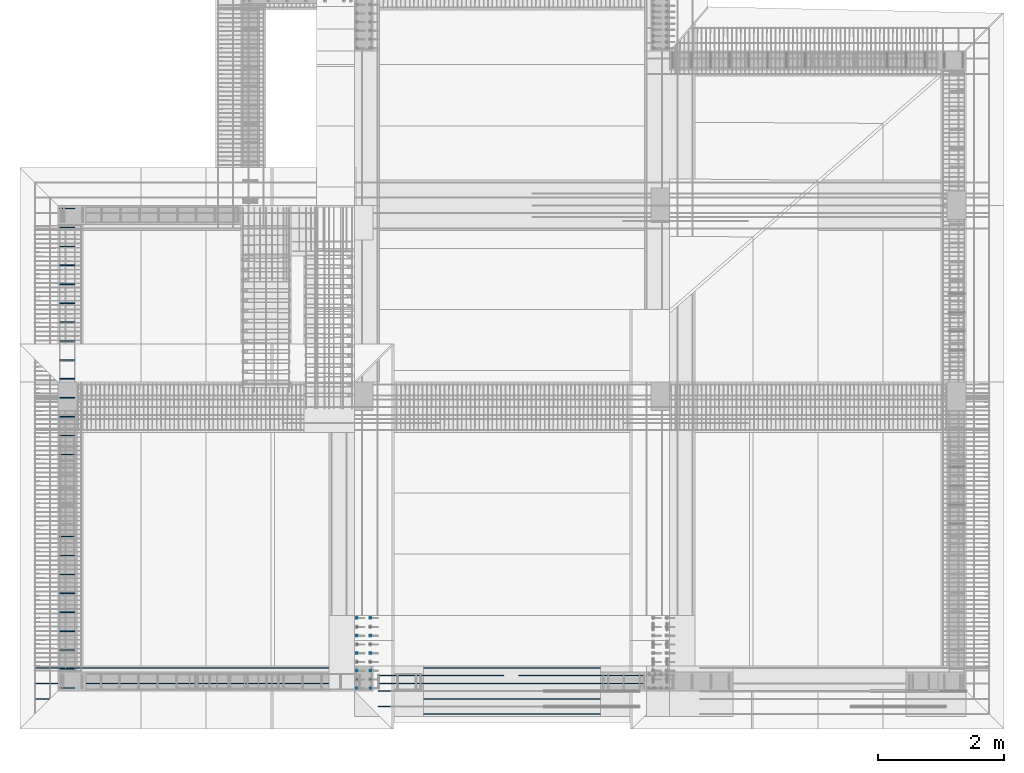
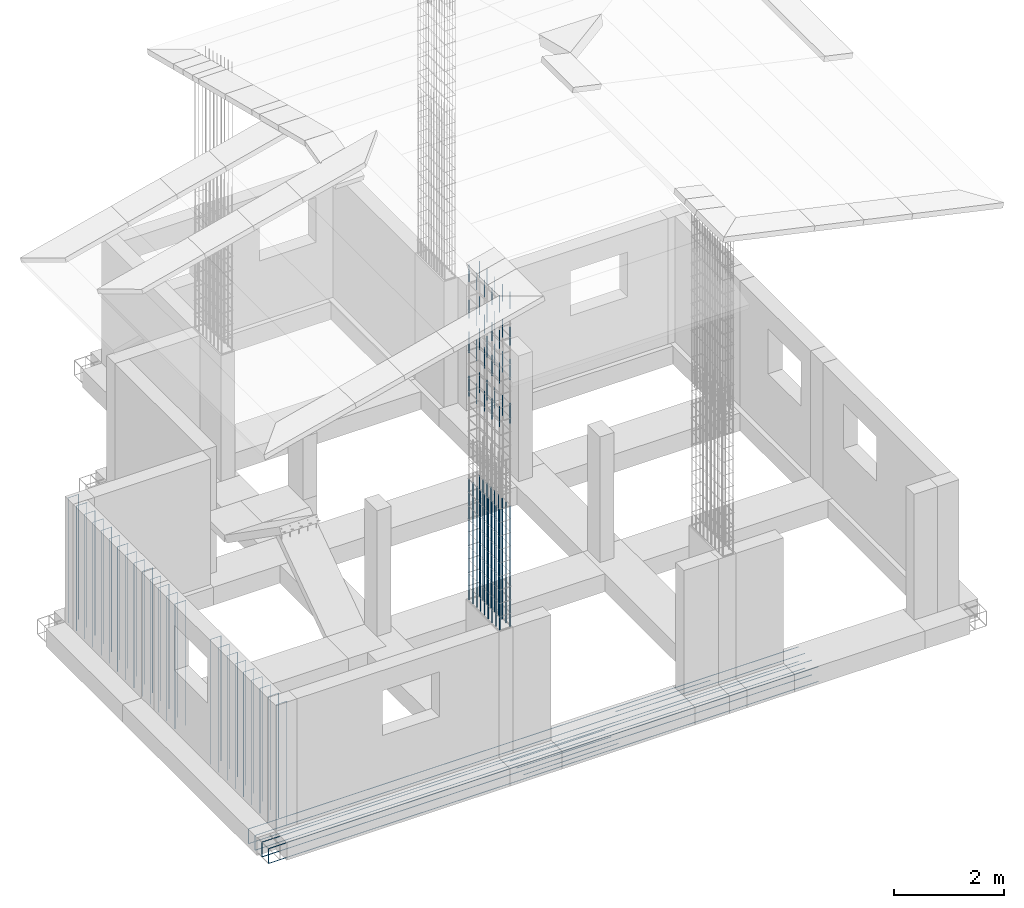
# One storey, part 4 of 15: 8 reinforcing bars.
"""IFC4 building model written with IfcOpenShell, lengths in metres."""

import ifcopenshell
import ifcopenshell.guid

model = None  # the IFC model being written
_history = None  # IfcOwnerHistory: only IFC2X3 demands one
_inside = {}  # id of a spatial element -> (the spatial element, [elements in it])
_under = {}  # id of a project, library or spatial element -> (it, [spatial elements below it])
_declared = {}  # id of a project -> (the project, [libraries it declares])
_typed = {}  # id of a type object -> (the type object, [elements of that type])
_made_of = {}  # id of a material, layer set ... -> (it, [elements and type objects made of it])


def new_model(schema):
    """Start an empty IFC model of exactly this schema.

    Asked for "IFC4X3", IfcOpenShell would pick the latest addendum, in which some entities
    have other attributes; the version numbers below select the first issue.
    IFC2X3 requires an IfcOwnerHistory on every rooted entity: one is made here for all.
    """
    global model, _history
    if schema == "IFC4X3":
        model = ifcopenshell.file(schema_version=(4, 3, 0, 0))
    else:
        model = ifcopenshell.file(schema=schema)
    _inside.clear()
    _under.clear()
    _declared.clear()
    _typed.clear()
    _made_of.clear()
    _history = None
    if model.schema == "IFC2X3":
        org = make("IfcOrganization", Name="unknown")
        user = make(
            "IfcPersonAndOrganization",
            ThePerson=make("IfcPerson", FamilyName="unknown"),
            TheOrganization=org,
        )
        app = make(
            "IfcApplication",
            ApplicationDeveloper=org,
            Version="unknown",
            ApplicationFullName="unknown",
            ApplicationIdentifier="unknown",
        )
        _history = make(
            "IfcOwnerHistory",
            OwningUser=user,
            OwningApplication=app,
            ChangeAction="ADDED",
            CreationDate=0,
        )
    return model


def make(cls, **values):
    """One entity of the class cls with the attributes given. An attribute that is None is left unset."""
    return model.create_entity(
        cls, **{name: value for name, value in values.items() if value is not None}
    )


def entity(cls, *values):
    """Any entity or typed value of the class cls, its attributes in the order of the schema. None: left unset."""
    e = model.create_entity(cls)
    for i, value in enumerate(values):
        if value is not None:
            e[i] = value
    return e


def rooted(cls, **values):
    """An entity with a GlobalId (a new one), such as an element, a storey or a relation."""
    return make(cls, GlobalId=ifcopenshell.guid.new(), OwnerHistory=_history, **values)


def si_unit(unit_type, name, prefix=None):
    """IfcSIUnit, for example si_unit("LENGTHUNIT", "METRE", prefix="MILLI")."""
    return make("IfcSIUnit", UnitType=unit_type, Prefix=prefix, Name=name)


def assignment(units):
    """IfcUnitAssignment: the units of a project."""
    return None if units is None else make("IfcUnitAssignment", Units=units)


def point(xyz):
    """IfcCartesianPoint."""
    return None if xyz is None else make("IfcCartesianPoint", Coordinates=xyz)


def direction(xyz):
    """IfcDirection."""
    return None if xyz is None else make("IfcDirection", DirectionRatios=xyz)


def frame(location, z_axis=None, x_axis=None):
    """IfcAxis2Placement3D, a coordinate frame: its origin and axes. An axis left out is left unset."""
    return make(
        "IfcAxis2Placement3D",
        Location=point(location),
        Axis=direction(z_axis),
        RefDirection=direction(x_axis),
    )


def origin_with_axes():
    """The frame at (0, 0, 0) with the z axis (0, 0, 1) and the x axis (1, 0, 0) written out."""
    return frame((0.0, 0.0, 0.0), z_axis=(0.0, 0.0, 1.0), x_axis=(1.0, 0.0, 0.0))


def place(relative_to, where):
    """IfcLocalPlacement: puts the frame where relative to a parent placement (None: the world)."""
    return make(
        "IfcLocalPlacement", PlacementRelTo=relative_to, RelativePlacement=where
    )


def context(
    kind, dimensions, precision=None, world=None, true_north=None, identifier=None
):
    """IfcGeometricRepresentationContext, for example the 3D "Model" context."""
    return make(
        "IfcGeometricRepresentationContext",
        ContextIdentifier=identifier,
        ContextType=kind,
        CoordinateSpaceDimension=dimensions,
        Precision=precision,
        WorldCoordinateSystem=world,
        TrueNorth=true_north,
    )


def project(units=None, contexts=None):
    """IfcProject with its units and contexts."""
    return rooted(
        "IfcProject",
        Name="project",
        RepresentationContexts=contexts,
        UnitsInContext=assignment(units),
    )


def spatial(cls, under=None, at=None, **own):
    """A site, building, storey or space (cls), placed at a placement, below another one or the project."""
    s = rooted(cls, ObjectPlacement=at, **own)
    if under is not None:
        _under.setdefault(under.id(), (under, []))[1].append(s)
    return s


def shape(context_of_items, identifier, shape_type, items):
    """IfcShapeRepresentation: the items that make up one representation, for example the "Body"."""
    return make(
        "IfcShapeRepresentation",
        ContextOfItems=context_of_items,
        RepresentationIdentifier=identifier,
        RepresentationType=shape_type,
        Items=items,
    )


def source(mapping_origin, context_of_items, identifier, shape_type, items):
    """IfcRepresentationMap: a shape defined once, which mapped items show again and again."""
    return make(
        "IfcRepresentationMap",
        MappingOrigin=mapping_origin,
        MappedRepresentation=shape(context_of_items, identifier, shape_type, items),
    )


def transform(
    local_origin,
    x_axis=None,
    y_axis=None,
    z_axis=None,
    scale=None,
    scale2=None,
    scale3=None,
    uniform=True,
):
    """IfcCartesianTransformationOperator3D, or its non-uniform kind. x_axis, y_axis, z_axis: its Axis1, 2, 3."""
    if uniform:
        return make(
            "IfcCartesianTransformationOperator3D",
            Axis1=direction(x_axis),
            Axis2=direction(y_axis),
            LocalOrigin=point(local_origin),
            Scale=scale,
            Axis3=direction(z_axis),
        )
    return make(
        "IfcCartesianTransformationOperator3DnonUniform",
        Axis1=direction(x_axis),
        Axis2=direction(y_axis),
        LocalOrigin=point(local_origin),
        Scale=scale,
        Axis3=direction(z_axis),
        Scale2=scale2,
        Scale3=scale3,
    )


def mapped(mapping_source, mapping_target):
    """IfcMappedItem: shows the shape of a source again, moved by a transform."""
    return make(
        "IfcMappedItem", MappingSource=mapping_source, MappingTarget=mapping_target
    )


def made_of(thing, what):
    """Note that an element or type object is made of a material, layer set ...; save() writes the relation."""
    if what is not None:
        _made_of.setdefault(what.id(), (what, []))[1].append(thing)
    return thing


def element(
    cls,
    number,
    at=None,
    inside=None,
    cuts=None,
    type_object=None,
    material=None,
    context=None,
    identifier="Body",
    shape_type=None,
    held_by="IfcProductDefinitionShape",
    body=None,
    shapes=None,
    **own,
):
    """One element of the class cls, such as IfcWall. Its Tag is "e" and its number.

    at: its placement. inside: the storey or other place that contains it. cuts: it is an
    opening in that element (IfcRelVoidsElement). A single representation is given by context,
    identifier, shape_type and body (its items); several are given by shapes. held_by: the class
    of the entity that holds the representations. save() writes the other relations.
    """
    e = rooted(cls, Tag="e%d" % number, ObjectPlacement=at, **own)
    if body is not None:
        shapes = [shape(context, identifier, shape_type, body)]
    if shapes is not None:
        e.Representation = make(held_by, Representations=shapes)
    if inside is not None:
        _inside.setdefault(inside.id(), (inside, []))[1].append(e)
    if cuts is not None:
        rooted(
            "IfcRelVoidsElement", RelatingBuildingElement=cuts, RelatedOpeningElement=e
        )
    if type_object is not None:
        _typed.setdefault(type_object.id(), (type_object, []))[1].append(e)
    return made_of(e, material)


def aggregate(whole, parts):
    """IfcRelAggregates: a whole, such as a stair, and the parts it consists of."""
    return rooted("IfcRelAggregates", RelatingObject=whole, RelatedObjects=parts)


def save(model, path):
    """Write the relations noted so far, then the file.

    IfcRelAggregates (storeys below a building ...), IfcRelContainedInSpatialStructure (elements
    in a storey), IfcRelDefinesByType, IfcRelAssociatesMaterial and IfcRelDeclares: one each for
    every whole, place, type object, material and project.
    """
    for whole, parts in _under.values():
        aggregate(whole, parts)
    for where, things in _inside.values():
        rooted(
            "IfcRelContainedInSpatialStructure",
            RelatedElements=things,
            RelatingStructure=where,
        )
    for kind, things in _typed.values():
        rooted("IfcRelDefinesByType", RelatedObjects=things, RelatingType=kind)
    for what, things in _made_of.values():
        rooted("IfcRelAssociatesMaterial", RelatedObjects=things, RelatingMaterial=what)
    for by, libraries in _declared.values():
        rooted("IfcRelDeclares", RelatingContext=by, RelatedDefinitions=libraries)
    model.write(path)


model = new_model("IFC4")

# Units and contexts
model_context = context("Model", 3, precision=1e-05, world=origin_with_axes())
ifc_project = project(units=[si_unit("LENGTHUNIT", "METRE"), si_unit("AREAUNIT", "SQUARE_METRE"), si_unit("VOLUMEUNIT", "CUBIC_METRE"), si_unit("MASSUNIT", "GRAM", prefix="KILO"), si_unit("TIMEUNIT", "SECOND"), si_unit("PLANEANGLEUNIT", "RADIAN"), si_unit("SOLIDANGLEUNIT", "STERADIAN"), si_unit("THERMODYNAMICTEMPERATUREUNIT", "DEGREE_CELSIUS")], contexts=[model_context])

# Site, building, storey
placement_1 = place(None, origin_with_axes())
site = spatial("IfcSite", under=ifc_project, at=placement_1, Name="Italia", CompositionType="ELEMENT")
building = spatial("IfcBuilding", under=site, at=placement_1, Name="Bifamiliare", CompositionType="ELEMENT")
storey = spatial("IfcBuildingStorey", under=building, at=placement_1, Name="Storey 0", CompositionType="ELEMENT", Elevation=0.0)

# Reinforcing bars
shared_shape_1 = source(origin_with_axes(), model_context, "Body", "AdvancedSweptSolid", [
    entity("IfcSweptDiskSolid", entity("IfcIndexedPolyCurve", entity("IfcCartesianPointList3D", [[6.057, 2.557, 2.8], [6.057, 2.557, 3.25]]), [entity("IfcLineIndex", [1, 2])], False), 0.01),
])
placement_2 = place(placement_1, origin_with_axes())
reinforcing_bar_1_placement = place(placement_2, origin_with_axes())
element("IfcReinforcingBar", 1, at=reinforcing_bar_1_placement, inside=storey, BarLength=0.45, CrossSectionArea=0.00031416, NominalDiameter=0.02, context=model_context, shape_type="MappedRepresentation", body=[
    mapped(shared_shape_1, transform((-0.214, -0.2795, 0.45), x_axis=(1.0, 0.0, 0.0), y_axis=(0.0, 1.0, 0.0), z_axis=(0.0, 0.0, 1.0), scale=1.0)),
    mapped(shared_shape_1, transform((-0.214, -0.14075, 0.45), x_axis=(1.0, 0.0, 0.0), y_axis=(0.0, 1.0, 0.0), z_axis=(0.0, 0.0, 1.0), scale=1.0)),
    mapped(shared_shape_1, transform((-0.214, -0.69575, 0.45), x_axis=(1.0, 0.0, 0.0), y_axis=(0.0, 1.0, 0.0), z_axis=(0.0, 0.0, 1.0), scale=1.0)),
    mapped(shared_shape_1, transform((-0.214, -0.69575, 0.9), x_axis=(1.0, 0.0, 0.0), y_axis=(0.0, 1.0, 0.0), z_axis=(0.0, 0.0, 1.0), scale=1.0)),
    mapped(shared_shape_1, transform((-0.214, -0.8345, 0.9), x_axis=(1.0, 0.0, 0.0), y_axis=(0.0, 1.0, 0.0), z_axis=(0.0, 0.0, 1.0), scale=1.0)),
    mapped(shared_shape_1, transform((-0.214, -0.557, 0.45), x_axis=(1.0, 0.0, 0.0), y_axis=(0.0, 1.0, 0.0), z_axis=(0.0, 0.0, 1.0), scale=1.0)),
    mapped(shared_shape_1, transform((-0.214, 0.0, 0.45), x_axis=(1.0, 0.0, 0.0), y_axis=(0.0, 1.0, 0.0), z_axis=(0.0, 0.0, 1.0), scale=1.0)),
    mapped(shared_shape_1, transform((-0.214, -0.8345, 0.45), x_axis=(1.0, 0.0, 0.0), y_axis=(0.0, 1.0, 0.0), z_axis=(0.0, 0.0, 1.0), scale=1.0)),
    mapped(shared_shape_1, transform((-0.214, -0.97325, 0.45), x_axis=(1.0, 0.0, 0.0), y_axis=(0.0, 1.0, 0.0), z_axis=(0.0, 0.0, 1.0), scale=1.0)),
    mapped(shared_shape_1, transform((-0.214, -0.41825, 0.45), x_axis=(1.0, 0.0, 0.0), y_axis=(0.0, 1.0, 0.0), z_axis=(0.0, 0.0, 1.0), scale=1.0)),
    mapped(shared_shape_1, transform((0.0, -0.2795, 0.0), x_axis=(1.0, 0.0, 0.0), y_axis=(0.0, 1.0, 0.0), z_axis=(0.0, 0.0, 1.0), scale=1.0)),
    mapped(shared_shape_1, transform((0.0, -1.114, 0.9), x_axis=(1.0, 0.0, 0.0), y_axis=(0.0, 1.0, 0.0), z_axis=(0.0, 0.0, 1.0), scale=1.0)),
    mapped(shared_shape_1, transform((0.0, -0.97325, 0.0), x_axis=(1.0, 0.0, 0.0), y_axis=(0.0, 1.0, 0.0), z_axis=(0.0, 0.0, 1.0), scale=1.0)),
    mapped(shared_shape_1, transform((-0.214, -0.97325, 0.9), x_axis=(1.0, 0.0, 0.0), y_axis=(0.0, 1.0, 0.0), z_axis=(0.0, 0.0, 1.0), scale=1.0)),
    mapped(shared_shape_1, transform((-0.214, -1.114, 0.0), x_axis=(1.0, 0.0, 0.0), y_axis=(0.0, 1.0, 0.0), z_axis=(0.0, 0.0, 1.0), scale=1.0)),
    mapped(shared_shape_1, transform((-0.214, -0.69575, 0.0), x_axis=(1.0, 0.0, 0.0), y_axis=(0.0, 1.0, 0.0), z_axis=(0.0, 0.0, 1.0), scale=1.0)),
    mapped(shared_shape_1, transform((-0.214, -0.8345, 0.0), x_axis=(1.0, 0.0, 0.0), y_axis=(0.0, 1.0, 0.0), z_axis=(0.0, 0.0, 1.0), scale=1.0)),
    mapped(shared_shape_1, transform((0.0, -0.69575, 0.0), x_axis=(1.0, 0.0, 0.0), y_axis=(0.0, 1.0, 0.0), z_axis=(0.0, 0.0, 1.0), scale=1.0)),
    mapped(shared_shape_1, transform((0.0, -0.14075, 0.0), x_axis=(1.0, 0.0, 0.0), y_axis=(0.0, 1.0, 0.0), z_axis=(0.0, 0.0, 1.0), scale=1.0)),
    mapped(shared_shape_1, transform((-0.214, -0.97325, 0.0), x_axis=(1.0, 0.0, 0.0), y_axis=(0.0, 1.0, 0.0), z_axis=(0.0, 0.0, 1.0), scale=1.0)),
    mapped(shared_shape_1, transform((0.0, -0.69575, 0.45), x_axis=(1.0, 0.0, 0.0), y_axis=(0.0, 1.0, 0.0), z_axis=(0.0, 0.0, 1.0), scale=1.0)),
    mapped(shared_shape_1, transform((0.0, -0.557, 0.45), x_axis=(1.0, 0.0, 0.0), y_axis=(0.0, 1.0, 0.0), z_axis=(0.0, 0.0, 1.0), scale=1.0)),
    mapped(shared_shape_1, transform((0.0, -0.8345, 0.45), x_axis=(1.0, 0.0, 0.0), y_axis=(0.0, 1.0, 0.0), z_axis=(0.0, 0.0, 1.0), scale=1.0)),
    mapped(shared_shape_1, transform((-0.214, -1.114, 0.45), x_axis=(1.0, 0.0, 0.0), y_axis=(0.0, 1.0, 0.0), z_axis=(0.0, 0.0, 1.0), scale=1.0)),
    mapped(shared_shape_1, transform((0.0, -0.557, 0.9), x_axis=(1.0, 0.0, 0.0), y_axis=(0.0, 1.0, 0.0), z_axis=(0.0, 0.0, 1.0), scale=1.0)),
    mapped(shared_shape_1, transform((0.0, -0.8345, 0.9), x_axis=(1.0, 0.0, 0.0), y_axis=(0.0, 1.0, 0.0), z_axis=(0.0, 0.0, 1.0), scale=1.0)),
    mapped(shared_shape_1, transform((0.0, -0.69575, 0.9), x_axis=(1.0, 0.0, 0.0), y_axis=(0.0, 1.0, 0.0), z_axis=(0.0, 0.0, 1.0), scale=1.0)),
    mapped(shared_shape_1, transform((0.0, -0.97325, 0.9), x_axis=(1.0, 0.0, 0.0), y_axis=(0.0, 1.0, 0.0), z_axis=(0.0, 0.0, 1.0), scale=1.0)),
    mapped(shared_shape_1, transform((-0.214, -0.557, 0.9), x_axis=(1.0, 0.0, 0.0), y_axis=(0.0, 1.0, 0.0), z_axis=(0.0, 0.0, 1.0), scale=1.0)),
    mapped(shared_shape_1, transform((0.0, -0.41825, 0.0), x_axis=(1.0, 0.0, 0.0), y_axis=(0.0, 1.0, 0.0), z_axis=(0.0, 0.0, 1.0), scale=1.0)),
    mapped(shared_shape_1, transform((-0.214, -0.557, 0.0), x_axis=(1.0, 0.0, 0.0), y_axis=(0.0, 1.0, 0.0), z_axis=(0.0, 0.0, 1.0), scale=1.0)),
    mapped(shared_shape_1, transform((0.0, -0.41825, 0.9), x_axis=(1.0, 0.0, 0.0), y_axis=(0.0, 1.0, 0.0), z_axis=(0.0, 0.0, 1.0), scale=1.0)),
    mapped(shared_shape_1, transform((0.0, -0.41825, 0.45), x_axis=(1.0, 0.0, 0.0), y_axis=(0.0, 1.0, 0.0), z_axis=(0.0, 0.0, 1.0), scale=1.0)),
    mapped(shared_shape_1, transform((-0.214, -1.114, 0.9), x_axis=(1.0, 0.0, 0.0), y_axis=(0.0, 1.0, 0.0), z_axis=(0.0, 0.0, 1.0), scale=1.0)),
    mapped(shared_shape_1, transform((0.0, -0.41825, 1.35), x_axis=(1.0, 0.0, 0.0), y_axis=(0.0, 1.0, 0.0), z_axis=(0.0, 0.0, 1.0), scale=1.0)),
    mapped(shared_shape_1, transform((0.0, -0.557, 1.35), x_axis=(1.0, 0.0, 0.0), y_axis=(0.0, 1.0, 0.0), z_axis=(0.0, 0.0, 1.0), scale=1.0)),
    mapped(shared_shape_1, transform((0.0, -0.69575, 1.35), x_axis=(1.0, 0.0, 0.0), y_axis=(0.0, 1.0, 0.0), z_axis=(0.0, 0.0, 1.0), scale=1.0)),
    mapped(shared_shape_1, transform((0.0, -0.8345, 1.35), x_axis=(1.0, 0.0, 0.0), y_axis=(0.0, 1.0, 0.0), z_axis=(0.0, 0.0, 1.0), scale=1.0)),
    mapped(shared_shape_1, transform((0.0, -0.97325, 1.35), x_axis=(1.0, 0.0, 0.0), y_axis=(0.0, 1.0, 0.0), z_axis=(0.0, 0.0, 1.0), scale=1.0)),
    mapped(shared_shape_1, transform((0.0, -0.8345, 0.0), x_axis=(1.0, 0.0, 0.0), y_axis=(0.0, 1.0, 0.0), z_axis=(0.0, 0.0, 1.0), scale=1.0)),
    mapped(shared_shape_1, transform((-0.214, -0.2795, 0.0), x_axis=(1.0, 0.0, 0.0), y_axis=(0.0, 1.0, 0.0), z_axis=(0.0, 0.0, 1.0), scale=1.0)),
    mapped(shared_shape_1, transform((-0.214, 0.0, 1.8), x_axis=(1.0, 0.0, 0.0), y_axis=(0.0, 1.0, 0.0), z_axis=(0.0, 0.0, 1.0), scale=1.0)),
    mapped(shared_shape_1, transform((-0.214, -0.2795, 0.9), x_axis=(1.0, 0.0, 0.0), y_axis=(0.0, 1.0, 0.0), z_axis=(0.0, 0.0, 1.0), scale=1.0)),
    mapped(shared_shape_1, transform((-0.214, -0.41825, 0.9), x_axis=(1.0, 0.0, 0.0), y_axis=(0.0, 1.0, 0.0), z_axis=(0.0, 0.0, 1.0), scale=1.0)),
    mapped(shared_shape_1, transform((-0.214, -0.8345, 1.8), x_axis=(1.0, 0.0, 0.0), y_axis=(0.0, 1.0, 0.0), z_axis=(0.0, 0.0, 1.0), scale=1.0)),
    mapped(shared_shape_1, transform((0.0, 0.0, 0.0), x_axis=(1.0, 0.0, 0.0), y_axis=(0.0, 1.0, 0.0), z_axis=(0.0, 0.0, 1.0), scale=1.0)),
    mapped(shared_shape_1, transform((-0.214, -0.14075, 0.0), x_axis=(1.0, 0.0, 0.0), y_axis=(0.0, 1.0, 0.0), z_axis=(0.0, 0.0, 1.0), scale=1.0)),
    mapped(shared_shape_1, transform((-0.214, -0.14075, 0.9), x_axis=(1.0, 0.0, 0.0), y_axis=(0.0, 1.0, 0.0), z_axis=(0.0, 0.0, 1.0), scale=1.0)),
    mapped(shared_shape_1, transform((0.0, -0.557, 0.0), x_axis=(1.0, 0.0, 0.0), y_axis=(0.0, 1.0, 0.0), z_axis=(0.0, 0.0, 1.0), scale=1.0)),
    mapped(shared_shape_1, transform((-0.214, -0.2795, 1.8), x_axis=(1.0, 0.0, 0.0), y_axis=(0.0, 1.0, 0.0), z_axis=(0.0, 0.0, 1.0), scale=1.0)),
    mapped(shared_shape_1, transform((-0.214, -0.557, 2.25), x_axis=(1.0, 0.0, 0.0), y_axis=(0.0, 1.0, 0.0), z_axis=(0.0, 0.0, 1.0), scale=1.0)),
    mapped(shared_shape_1, transform((-0.214, -0.41825, 0.0), x_axis=(1.0, 0.0, 0.0), y_axis=(0.0, 1.0, 0.0), z_axis=(0.0, 0.0, 1.0), scale=1.0)),
    mapped(shared_shape_1, transform((0.0, 0.0, 1.35), x_axis=(1.0, 0.0, 0.0), y_axis=(0.0, 1.0, 0.0), z_axis=(0.0, 0.0, 1.0), scale=1.0)),
    mapped(shared_shape_1, transform((0.0, -0.2795, 1.35), x_axis=(1.0, 0.0, 0.0), y_axis=(0.0, 1.0, 0.0), z_axis=(0.0, 0.0, 1.0), scale=1.0)),
    mapped(shared_shape_1, transform((0.0, 0.0, 0.9), x_axis=(1.0, 0.0, 0.0), y_axis=(0.0, 1.0, 0.0), z_axis=(0.0, 0.0, 1.0), scale=1.0)),
    mapped(shared_shape_1, transform((0.0, -0.2795, 0.9), x_axis=(1.0, 0.0, 0.0), y_axis=(0.0, 1.0, 0.0), z_axis=(0.0, 0.0, 1.0), scale=1.0)),
    mapped(shared_shape_1, transform((0.0, -0.14075, 1.35), x_axis=(1.0, 0.0, 0.0), y_axis=(0.0, 1.0, 0.0), z_axis=(0.0, 0.0, 1.0), scale=1.0)),
    mapped(shared_shape_1, transform((0.0, -0.14075, 0.9), x_axis=(1.0, 0.0, 0.0), y_axis=(0.0, 1.0, 0.0), z_axis=(0.0, 0.0, 1.0), scale=1.0)),
    mapped(shared_shape_1, transform((0.0, -0.14075, 0.45), x_axis=(1.0, 0.0, 0.0), y_axis=(0.0, 1.0, 0.0), z_axis=(0.0, 0.0, 1.0), scale=1.0)),
    mapped(shared_shape_1, transform((0.0, 0.0, 0.45), x_axis=(1.0, 0.0, 0.0), y_axis=(0.0, 1.0, 0.0), z_axis=(0.0, 0.0, 1.0), scale=1.0)),
    mapped(shared_shape_1, transform((0.0, -0.2795, 0.45), x_axis=(1.0, 0.0, 0.0), y_axis=(0.0, 1.0, 0.0), z_axis=(0.0, 0.0, 1.0), scale=1.0)),
    mapped(shared_shape_1, transform((-0.214, -1.114, 1.35), x_axis=(1.0, 0.0, 0.0), y_axis=(0.0, 1.0, 0.0), z_axis=(0.0, 0.0, 1.0), scale=1.0)),
    mapped(shared_shape_1, transform((-0.214, 0.0, 0.9), x_axis=(1.0, 0.0, 0.0), y_axis=(0.0, 1.0, 0.0), z_axis=(0.0, 0.0, 1.0), scale=1.0)),
    mapped(shared_shape_1, transform((-0.214, -0.557, 1.8), x_axis=(1.0, 0.0, 0.0), y_axis=(0.0, 1.0, 0.0), z_axis=(0.0, 0.0, 1.0), scale=1.0)),
    mapped(shared_shape_1, transform((-0.214, -1.114, 1.8), x_axis=(1.0, 0.0, 0.0), y_axis=(0.0, 1.0, 0.0), z_axis=(0.0, 0.0, 1.0), scale=1.0)),
    mapped(shared_shape_1, transform((0.0, -0.97325, 2.25), x_axis=(1.0, 0.0, 0.0), y_axis=(0.0, 1.0, 0.0), z_axis=(0.0, 0.0, 1.0), scale=1.0)),
    mapped(shared_shape_1, transform((-0.214, -0.69575, 1.8), x_axis=(1.0, 0.0, 0.0), y_axis=(0.0, 1.0, 0.0), z_axis=(0.0, 0.0, 1.0), scale=1.0)),
    mapped(shared_shape_1, transform((0.0, -0.97325, 0.45), x_axis=(1.0, 0.0, 0.0), y_axis=(0.0, 1.0, 0.0), z_axis=(0.0, 0.0, 1.0), scale=1.0)),
    mapped(shared_shape_1, transform((-0.214, 0.0, 0.0), x_axis=(1.0, 0.0, 0.0), y_axis=(0.0, 1.0, 0.0), z_axis=(0.0, 0.0, 1.0), scale=1.0)),
    mapped(shared_shape_1, transform((-0.214, -0.41825, 1.8), x_axis=(1.0, 0.0, 0.0), y_axis=(0.0, 1.0, 0.0), z_axis=(0.0, 0.0, 1.0), scale=1.0)),
    mapped(shared_shape_1, transform((-0.214, -1.114, 2.25), x_axis=(1.0, 0.0, 0.0), y_axis=(0.0, 1.0, 0.0), z_axis=(0.0, 0.0, 1.0), scale=1.0)),
    mapped(shared_shape_1, transform((-0.214, -0.97325, 1.35), x_axis=(1.0, 0.0, 0.0), y_axis=(0.0, 1.0, 0.0), z_axis=(0.0, 0.0, 1.0), scale=1.0)),
    mapped(shared_shape_1, transform((0.0, -0.8345, 1.8), x_axis=(1.0, 0.0, 0.0), y_axis=(0.0, 1.0, 0.0), z_axis=(0.0, 0.0, 1.0), scale=1.0)),
    mapped(shared_shape_1, transform((0.0, -1.114, 0.45), x_axis=(1.0, 0.0, 0.0), y_axis=(0.0, 1.0, 0.0), z_axis=(0.0, 0.0, 1.0), scale=1.0)),
    mapped(shared_shape_1, transform((-0.214, -0.69575, 1.35), x_axis=(1.0, 0.0, 0.0), y_axis=(0.0, 1.0, 0.0), z_axis=(0.0, 0.0, 1.0), scale=1.0)),
    mapped(shared_shape_1, transform((-0.214, -0.14075, 1.8), x_axis=(1.0, 0.0, 0.0), y_axis=(0.0, 1.0, 0.0), z_axis=(0.0, 0.0, 1.0), scale=1.0)),
    mapped(shared_shape_1, transform((-0.214, -0.41825, 2.25), x_axis=(1.0, 0.0, 0.0), y_axis=(0.0, 1.0, 0.0), z_axis=(0.0, 0.0, 1.0), scale=1.0)),
    mapped(shared_shape_1, transform((0.0, -1.114, 0.0), x_axis=(1.0, 0.0, 0.0), y_axis=(0.0, 1.0, 0.0), z_axis=(0.0, 0.0, 1.0), scale=1.0)),
    mapped(shared_shape_1, transform((0.0, -1.114, 2.25), x_axis=(1.0, 0.0, 0.0), y_axis=(0.0, 1.0, 0.0), z_axis=(0.0, 0.0, 1.0), scale=1.0)),
    mapped(shared_shape_1, transform((-0.214, -0.97325, 2.25), x_axis=(1.0, 0.0, 0.0), y_axis=(0.0, 1.0, 0.0), z_axis=(0.0, 0.0, 1.0), scale=1.0)),
    mapped(shared_shape_1, transform((-0.214, -0.97325, 1.8), x_axis=(1.0, 0.0, 0.0), y_axis=(0.0, 1.0, 0.0), z_axis=(0.0, 0.0, 1.0), scale=1.0)),
    mapped(shared_shape_1, transform((0.0, -0.8345, 2.25), x_axis=(1.0, 0.0, 0.0), y_axis=(0.0, 1.0, 0.0), z_axis=(0.0, 0.0, 1.0), scale=1.0)),
    mapped(shared_shape_1, transform((-0.214, -0.557, 1.35), x_axis=(1.0, 0.0, 0.0), y_axis=(0.0, 1.0, 0.0), z_axis=(0.0, 0.0, 1.0), scale=1.0)),
    mapped(shared_shape_1, transform((-0.214, -0.14075, 1.35), x_axis=(1.0, 0.0, 0.0), y_axis=(0.0, 1.0, 0.0), z_axis=(0.0, 0.0, 1.0), scale=1.0)),
    mapped(shared_shape_1, transform((-0.214, -0.69575, 2.25), x_axis=(1.0, 0.0, 0.0), y_axis=(0.0, 1.0, 0.0), z_axis=(0.0, 0.0, 1.0), scale=1.0)),
    mapped(shared_shape_1, transform((-0.214, -0.8345, 1.35), x_axis=(1.0, 0.0, 0.0), y_axis=(0.0, 1.0, 0.0), z_axis=(0.0, 0.0, 1.0), scale=1.0)),
    mapped(shared_shape_1, transform((0.0, -0.41825, 2.25), x_axis=(1.0, 0.0, 0.0), y_axis=(0.0, 1.0, 0.0), z_axis=(0.0, 0.0, 1.0), scale=1.0)),
    mapped(shared_shape_1, transform((0.0, -0.557, 2.25), x_axis=(1.0, 0.0, 0.0), y_axis=(0.0, 1.0, 0.0), z_axis=(0.0, 0.0, 1.0), scale=1.0)),
    mapped(shared_shape_1, transform((0.0, -0.69575, 2.25), x_axis=(1.0, 0.0, 0.0), y_axis=(0.0, 1.0, 0.0), z_axis=(0.0, 0.0, 1.0), scale=1.0)),
    mapped(shared_shape_1, transform((0.0, -0.557, 1.8), x_axis=(1.0, 0.0, 0.0), y_axis=(0.0, 1.0, 0.0), z_axis=(0.0, 0.0, 1.0), scale=1.0)),
    mapped(shared_shape_1, transform((0.0, -0.41825, 1.8), x_axis=(1.0, 0.0, 0.0), y_axis=(0.0, 1.0, 0.0), z_axis=(0.0, 0.0, 1.0), scale=1.0)),
    mapped(shared_shape_1, transform((0.0, -0.69575, 1.8), x_axis=(1.0, 0.0, 0.0), y_axis=(0.0, 1.0, 0.0), z_axis=(0.0, 0.0, 1.0), scale=1.0)),
    mapped(shared_shape_1, transform((-0.214, 0.0, 2.25), x_axis=(1.0, 0.0, 0.0), y_axis=(0.0, 1.0, 0.0), z_axis=(0.0, 0.0, 1.0), scale=1.0)),
    mapped(shared_shape_1, transform((0.0, -1.114, 1.35), x_axis=(1.0, 0.0, 0.0), y_axis=(0.0, 1.0, 0.0), z_axis=(0.0, 0.0, 1.0), scale=1.0)),
    mapped(shared_shape_1, transform((-0.214, 0.0, 1.35), x_axis=(1.0, 0.0, 0.0), y_axis=(0.0, 1.0, 0.0), z_axis=(0.0, 0.0, 1.0), scale=1.0)),
    mapped(shared_shape_1, transform((-0.214, -0.8345, 2.25), x_axis=(1.0, 0.0, 0.0), y_axis=(0.0, 1.0, 0.0), z_axis=(0.0, 0.0, 1.0), scale=1.0)),
    mapped(shared_shape_1, transform((0.0, -0.97325, 1.8), x_axis=(1.0, 0.0, 0.0), y_axis=(0.0, 1.0, 0.0), z_axis=(0.0, 0.0, 1.0), scale=1.0)),
    mapped(shared_shape_1, transform((-0.214, -0.14075, 2.25), x_axis=(1.0, 0.0, 0.0), y_axis=(0.0, 1.0, 0.0), z_axis=(0.0, 0.0, 1.0), scale=1.0)),
    mapped(shared_shape_1, transform((-0.214, -0.2795, 2.25), x_axis=(1.0, 0.0, 0.0), y_axis=(0.0, 1.0, 0.0), z_axis=(0.0, 0.0, 1.0), scale=1.0)),
    mapped(shared_shape_1, transform((-0.214, -0.2795, 1.35), x_axis=(1.0, 0.0, 0.0), y_axis=(0.0, 1.0, 0.0), z_axis=(0.0, 0.0, 1.0), scale=1.0)),
    mapped(shared_shape_1, transform((-0.214, -0.41825, 1.35), x_axis=(1.0, 0.0, 0.0), y_axis=(0.0, 1.0, 0.0), z_axis=(0.0, 0.0, 1.0), scale=1.0)),
    mapped(shared_shape_1, transform((0.0, 0.0, 1.8), x_axis=(1.0, 0.0, 0.0), y_axis=(0.0, 1.0, 0.0), z_axis=(0.0, 0.0, 1.0), scale=1.0)),
    mapped(shared_shape_1, transform((0.0, -0.2795, 1.8), x_axis=(1.0, 0.0, 0.0), y_axis=(0.0, 1.0, 0.0), z_axis=(0.0, 0.0, 1.0), scale=1.0)),
    mapped(shared_shape_1, transform((0.0, -0.14075, 2.25), x_axis=(1.0, 0.0, 0.0), y_axis=(0.0, 1.0, 0.0), z_axis=(0.0, 0.0, 1.0), scale=1.0)),
    mapped(shared_shape_1, transform((0.0, 0.0, 2.25), x_axis=(1.0, 0.0, 0.0), y_axis=(0.0, 1.0, 0.0), z_axis=(0.0, 0.0, 1.0), scale=1.0)),
    mapped(shared_shape_1, transform((0.0, -0.2795, 2.25), x_axis=(1.0, 0.0, 0.0), y_axis=(0.0, 1.0, 0.0), z_axis=(0.0, 0.0, 1.0), scale=1.0)),
    mapped(shared_shape_1, transform((0.0, -0.14075, 1.8), x_axis=(1.0, 0.0, 0.0), y_axis=(0.0, 1.0, 0.0), z_axis=(0.0, 0.0, 1.0), scale=1.0)),
    mapped(shared_shape_1, transform((0.0, -1.114, 1.8), x_axis=(1.0, 0.0, 0.0), y_axis=(0.0, 1.0, 0.0), z_axis=(0.0, 0.0, 1.0), scale=1.0)),
])
shared_shape_2 = source(origin_with_axes(), model_context, "Body", "AdvancedSweptSolid", [
    entity("IfcSweptDiskSolid", entity("IfcIndexedPolyCurve", entity("IfcCartesianPointList3D", [[6.059, 2.559, 7.33463], [6.059, 2.559, 7.79445]]), [entity("IfcLineIndex", [1, 2])], False), 0.008),
])
reinforcing_bar_2_placement = place(placement_2, origin_with_axes())
element("IfcReinforcingBar", 2, at=reinforcing_bar_2_placement, inside=storey, BarLength=0.459816, CrossSectionArea=0.00020106, NominalDiameter=0.016, context=model_context, shape_type="MappedRepresentation", body=[
    mapped(shared_shape_2, transform((-0.218, -0.8375, 0.0), x_axis=(1.0, 0.0, 0.0), y_axis=(0.0, 1.0, 0.0), z_axis=(0.0, 0.0, 1.0), scale=1.0)),
    mapped(shared_shape_2, transform((-0.218, -1.118, 0.0), x_axis=(1.0, 0.0, 0.0), y_axis=(0.0, 1.0, 0.0), z_axis=(0.0, 0.0, 1.0), scale=1.0)),
    mapped(shared_shape_2, transform((-0.218, -0.2805, 0.0), x_axis=(1.0, 0.0, 0.0), y_axis=(0.0, 1.0, 0.0), z_axis=(0.0, 0.0, 1.0), scale=1.0)),
    mapped(shared_shape_2, transform((-0.218, -0.559, 0.0), x_axis=(1.0, 0.0, 0.0), y_axis=(0.0, 1.0, 0.0), z_axis=(0.0, 0.0, 1.0), scale=1.0)),
    mapped(shared_shape_2, transform((0.0, 0.0, 0.0), x_axis=(1.0, 0.0, 0.0), y_axis=(0.0, 1.0, 0.0), z_axis=(0.0, 0.0, 1.0), scale=1.0)),
    mapped(shared_shape_2, transform((-0.218, 0.0, 0.0), x_axis=(1.0, 0.0, 0.0), y_axis=(0.0, 1.0, 0.0), z_axis=(0.0, 0.0, 1.0), scale=1.0)),
    mapped(shared_shape_2, transform((0.0, -0.559, 0.0), x_axis=(1.0, 0.0, 0.0), y_axis=(0.0, 1.0, 0.0), z_axis=(0.0, 0.0, 1.0), scale=1.0)),
    mapped(shared_shape_2, transform((0.0, -0.2805, 0.0), x_axis=(1.0, 0.0, 0.0), y_axis=(0.0, 1.0, 0.0), z_axis=(0.0, 0.0, 1.0), scale=1.0)),
    mapped(shared_shape_2, transform((0.0, -1.118, 0.0), x_axis=(1.0, 0.0, 0.0), y_axis=(0.0, 1.0, 0.0), z_axis=(0.0, 0.0, 1.0), scale=1.0)),
    mapped(shared_shape_2, transform((0.0, -0.8375, 0.0), x_axis=(1.0, 0.0, 0.0), y_axis=(0.0, 1.0, 0.0), z_axis=(0.0, 0.0, 1.0), scale=1.0)),
])
shared_shape_3 = source(origin_with_axes(), model_context, "Body", "AdvancedSweptSolid", [
    entity("IfcSweptDiskSolid", entity("IfcIndexedPolyCurve", entity("IfcCartesianPointList3D", [[6.059, 2.559, 8.3], [6.059, 2.559, 8.77]]), [entity("IfcLineIndex", [1, 2])], False), 0.008),
])
reinforcing_bar_3_placement = place(placement_2, origin_with_axes())
element("IfcReinforcingBar", 3, at=reinforcing_bar_3_placement, inside=storey, BarLength=0.47, CrossSectionArea=0.00020106, NominalDiameter=0.016, context=model_context, shape_type="MappedRepresentation", body=[
    mapped(shared_shape_3, transform((-0.218, -0.8375, 0.0), x_axis=(1.0, 0.0, 0.0), y_axis=(0.0, 1.0, 0.0), z_axis=(0.0, 0.0, 1.0), scale=1.0)),
    mapped(shared_shape_3, transform((-0.218, -1.118, 0.0), x_axis=(1.0, 0.0, 0.0), y_axis=(0.0, 1.0, 0.0), z_axis=(0.0, 0.0, 1.0), scale=1.0)),
    mapped(shared_shape_3, transform((-0.218, -0.2805, 0.0), x_axis=(1.0, 0.0, 0.0), y_axis=(0.0, 1.0, 0.0), z_axis=(0.0, 0.0, 1.0), scale=1.0)),
    mapped(shared_shape_3, transform((-0.218, -0.559, 0.0), x_axis=(1.0, 0.0, 0.0), y_axis=(0.0, 1.0, 0.0), z_axis=(0.0, 0.0, 1.0), scale=1.0)),
    mapped(shared_shape_3, transform((0.0, 0.0, 0.0), x_axis=(1.0, 0.0, 0.0), y_axis=(0.0, 1.0, 0.0), z_axis=(0.0, 0.0, 1.0), scale=1.0)),
    mapped(shared_shape_3, transform((-0.218, 0.0, 0.0), x_axis=(1.0, 0.0, 0.0), y_axis=(0.0, 1.0, 0.0), z_axis=(0.0, 0.0, 1.0), scale=1.0)),
    mapped(shared_shape_3, transform((0.0, -0.559, 0.0), x_axis=(1.0, 0.0, 0.0), y_axis=(0.0, 1.0, 0.0), z_axis=(0.0, 0.0, 1.0), scale=1.0)),
    mapped(shared_shape_3, transform((0.0, -0.2805, 0.0), x_axis=(1.0, 0.0, 0.0), y_axis=(0.0, 1.0, 0.0), z_axis=(0.0, 0.0, 1.0), scale=1.0)),
    mapped(shared_shape_3, transform((0.0, -1.118, 0.0), x_axis=(1.0, 0.0, 0.0), y_axis=(0.0, 1.0, 0.0), z_axis=(0.0, 0.0, 1.0), scale=1.0)),
    mapped(shared_shape_3, transform((0.0, -0.8375, 0.0), x_axis=(1.0, 0.0, 0.0), y_axis=(0.0, 1.0, 0.0), z_axis=(0.0, 0.0, 1.0), scale=1.0)),
])
shared_shape_4 = source(origin_with_axes(), model_context, "Body", "AdvancedSweptSolid", [
    entity("IfcSweptDiskSolid", entity("IfcIndexedPolyCurve", entity("IfcCartesianPointList3D", [[6.059, 2.559, 9.07565], [6.059, 2.559, 9.48847]]), [entity("IfcLineIndex", [1, 2])], False), 0.008),
])
reinforcing_bar_4_placement = place(placement_2, origin_with_axes())
element("IfcReinforcingBar", 4, at=reinforcing_bar_4_placement, inside=storey, BarLength=0.412824, CrossSectionArea=0.00020106, NominalDiameter=0.016, context=model_context, shape_type="MappedRepresentation", body=[
    mapped(shared_shape_4, transform((-0.218, -0.8375, 0.0), x_axis=(1.0, 0.0, 0.0), y_axis=(0.0, 1.0, 0.0), z_axis=(0.0, 0.0, 1.0), scale=1.0)),
    mapped(shared_shape_4, transform((-0.218, -1.118, 0.0), x_axis=(1.0, 0.0, 0.0), y_axis=(0.0, 1.0, 0.0), z_axis=(0.0, 0.0, 1.0), scale=1.0)),
    mapped(shared_shape_4, transform((-0.218, -0.2805, 0.0), x_axis=(1.0, 0.0, 0.0), y_axis=(0.0, 1.0, 0.0), z_axis=(0.0, 0.0, 1.0), scale=1.0)),
    mapped(shared_shape_4, transform((-0.218, -0.559, 0.0), x_axis=(1.0, 0.0, 0.0), y_axis=(0.0, 1.0, 0.0), z_axis=(0.0, 0.0, 1.0), scale=1.0)),
    mapped(shared_shape_4, transform((0.0, 0.0, 0.0), x_axis=(1.0, 0.0, 0.0), y_axis=(0.0, 1.0, 0.0), z_axis=(0.0, 0.0, 1.0), scale=1.0)),
    mapped(shared_shape_4, transform((-0.218, 0.0, 0.0), x_axis=(1.0, 0.0, 0.0), y_axis=(0.0, 1.0, 0.0), z_axis=(0.0, 0.0, 1.0), scale=1.0)),
    mapped(shared_shape_4, transform((0.0, -0.559, 0.0), x_axis=(1.0, 0.0, 0.0), y_axis=(0.0, 1.0, 0.0), z_axis=(0.0, 0.0, 1.0), scale=1.0)),
    mapped(shared_shape_4, transform((0.0, -0.2805, 0.0), x_axis=(1.0, 0.0, 0.0), y_axis=(0.0, 1.0, 0.0), z_axis=(0.0, 0.0, 1.0), scale=1.0)),
    mapped(shared_shape_4, transform((0.0, -1.118, 0.0), x_axis=(1.0, 0.0, 0.0), y_axis=(0.0, 1.0, 0.0), z_axis=(0.0, 0.0, 1.0), scale=1.0)),
    mapped(shared_shape_4, transform((0.0, -0.8375, 0.0), x_axis=(1.0, 0.0, 0.0), y_axis=(0.0, 1.0, 0.0), z_axis=(0.0, 0.0, 1.0), scale=1.0)),
])
shared_shape_5 = source(origin_with_axes(), model_context, "Body", "AdvancedSweptSolid", [
    entity("IfcSweptDiskSolid", entity("IfcIndexedPolyCurve", entity("IfcCartesianPointList3D", [[6.059, 2.559, 9.88333], [6.059, 2.559, 10.265]]), [entity("IfcLineIndex", [1, 2])], False), 0.008),
])
reinforcing_bar_5_placement = place(placement_2, origin_with_axes())
element("IfcReinforcingBar", 5, at=reinforcing_bar_5_placement, inside=storey, BarLength=0.381667, CrossSectionArea=0.00020106, NominalDiameter=0.016, context=model_context, shape_type="MappedRepresentation", body=[
    mapped(shared_shape_5, transform((-0.218, -0.8375, 0.0), x_axis=(1.0, 0.0, 0.0), y_axis=(0.0, 1.0, 0.0), z_axis=(0.0, 0.0, 1.0), scale=1.0)),
    mapped(shared_shape_5, transform((-0.218, -1.118, 0.0), x_axis=(1.0, 0.0, 0.0), y_axis=(0.0, 1.0, 0.0), z_axis=(0.0, 0.0, 1.0), scale=1.0)),
    mapped(shared_shape_5, transform((-0.218, -0.2805, 0.0), x_axis=(1.0, 0.0, 0.0), y_axis=(0.0, 1.0, 0.0), z_axis=(0.0, 0.0, 1.0), scale=1.0)),
    mapped(shared_shape_5, transform((-0.218, -0.559, 0.0), x_axis=(1.0, 0.0, 0.0), y_axis=(0.0, 1.0, 0.0), z_axis=(0.0, 0.0, 1.0), scale=1.0)),
    mapped(shared_shape_5, transform((0.0, 0.0, 0.0), x_axis=(1.0, 0.0, 0.0), y_axis=(0.0, 1.0, 0.0), z_axis=(0.0, 0.0, 1.0), scale=1.0)),
    mapped(shared_shape_5, transform((-0.218, 0.0, 0.0), x_axis=(1.0, 0.0, 0.0), y_axis=(0.0, 1.0, 0.0), z_axis=(0.0, 0.0, 1.0), scale=1.0)),
    mapped(shared_shape_5, transform((0.0, -0.559, 0.0), x_axis=(1.0, 0.0, 0.0), y_axis=(0.0, 1.0, 0.0), z_axis=(0.0, 0.0, 1.0), scale=1.0)),
    mapped(shared_shape_5, transform((0.0, -0.2805, 0.0), x_axis=(1.0, 0.0, 0.0), y_axis=(0.0, 1.0, 0.0), z_axis=(0.0, 0.0, 1.0), scale=1.0)),
    mapped(shared_shape_5, transform((0.0, -1.118, 0.0), x_axis=(1.0, 0.0, 0.0), y_axis=(0.0, 1.0, 0.0), z_axis=(0.0, 0.0, 1.0), scale=1.0)),
    mapped(shared_shape_5, transform((0.0, -0.8375, 0.0), x_axis=(1.0, 0.0, 0.0), y_axis=(0.0, 1.0, 0.0), z_axis=(0.0, 0.0, 1.0), scale=1.0)),
])
shared_shape_6 = source(origin_with_axes(), model_context, "Body", "AdvancedSweptSolid", [
    entity("IfcSweptDiskSolid", entity("IfcIndexedPolyCurve", entity("IfcCartesianPointList3D", [[1.359, 1.45, 0.0], [1.359, 1.45, 2.781], [1.133, 1.45, 2.781]]), [entity("IfcLineIndex", [1, 2]), entity("IfcLineIndex", [2, 3])], False), 0.006),
])
reinforcing_bar_6_placement = place(placement_2, origin_with_axes())
element("IfcReinforcingBar", 6, at=reinforcing_bar_6_placement, inside=storey, BarLength=3.007, CrossSectionArea=0.0001131, NominalDiameter=0.012, context=model_context, shape_type="MappedRepresentation", body=[
    mapped(shared_shape_6, transform((2.5, 8.4, 0.0), x_axis=(-1.0, 0.0, 0.0), y_axis=(0.0, -1.0, 0.0), z_axis=(0.0, 0.0, 1.0), scale=1.0)),
    mapped(shared_shape_6, transform((0.0, 4.6, 0.0), x_axis=(1.0, 0.0, 0.0), y_axis=(0.0, 1.0, 0.0), z_axis=(0.0, 0.0, 1.0), scale=1.0)),
    mapped(shared_shape_6, transform((2.5, 8.7, 0.0), x_axis=(-1.0, 0.0, 0.0), y_axis=(0.0, -1.0, 0.0), z_axis=(0.0, 0.0, 1.0), scale=1.0)),
    mapped(shared_shape_6, transform((0.0, 5.8, 0.0), x_axis=(1.0, 0.0, 0.0), y_axis=(0.0, 1.0, 0.0), z_axis=(0.0, 0.0, 1.0), scale=1.0)),
    mapped(shared_shape_6, transform((0.0, 5.5, 0.0), x_axis=(1.0, 0.0, 0.0), y_axis=(0.0, 1.0, 0.0), z_axis=(0.0, 0.0, 1.0), scale=1.0)),
    mapped(shared_shape_6, transform((2.5, 7.2, 0.0), x_axis=(-1.0, 0.0, 0.0), y_axis=(0.0, -1.0, 0.0), z_axis=(0.0, 0.0, 1.0), scale=1.0)),
    mapped(shared_shape_6, transform((2.5, 7.8, 0.0), x_axis=(-1.0, 0.0, 0.0), y_axis=(0.0, -1.0, 0.0), z_axis=(0.0, 0.0, 1.0), scale=1.0)),
    mapped(shared_shape_6, transform((0.0, 4.9, 0.0), x_axis=(1.0, 0.0, 0.0), y_axis=(0.0, 1.0, 0.0), z_axis=(0.0, 0.0, 1.0), scale=1.0)),
    mapped(shared_shape_6, transform((2.5, 8.1, 0.0), x_axis=(-1.0, 0.0, 0.0), y_axis=(0.0, -1.0, 0.0), z_axis=(0.0, 0.0, 1.0), scale=1.0)),
    mapped(shared_shape_6, transform((0.0, 5.2, 0.0), x_axis=(1.0, 0.0, 0.0), y_axis=(0.0, 1.0, 0.0), z_axis=(0.0, 0.0, 1.0), scale=1.0)),
    mapped(shared_shape_6, transform((2.5, 10.2, 0.0), x_axis=(-1.0, 0.0, 0.0), y_axis=(0.0, -1.0, 0.0), z_axis=(0.0, 0.0, 1.0), scale=1.0)),
    mapped(shared_shape_6, transform((2.5, 7.5, 0.0), x_axis=(-1.0, 0.0, 0.0), y_axis=(0.0, -1.0, 0.0), z_axis=(0.0, 0.0, 1.0), scale=1.0)),
    mapped(shared_shape_6, transform((0.0, 6.1, 0.0), x_axis=(1.0, 0.0, 0.0), y_axis=(0.0, 1.0, 0.0), z_axis=(0.0, 0.0, 1.0), scale=1.0)),
    mapped(shared_shape_6, transform((0.0, 7.6, 0.0), x_axis=(1.0, 0.0, 0.0), y_axis=(0.0, 1.0, 0.0), z_axis=(0.0, 0.0, 1.0), scale=1.0)),
    mapped(shared_shape_6, transform((0.0, 7.3, 0.0), x_axis=(1.0, 0.0, 0.0), y_axis=(0.0, 1.0, 0.0), z_axis=(0.0, 0.0, 1.0), scale=1.0)),
    mapped(shared_shape_6, transform((2.5, 9.0, 0.0), x_axis=(-1.0, 0.0, 0.0), y_axis=(0.0, -1.0, 0.0), z_axis=(0.0, 0.0, 1.0), scale=1.0)),
    mapped(shared_shape_6, transform((2.5, 9.6, 0.0), x_axis=(-1.0, 0.0, 0.0), y_axis=(0.0, -1.0, 0.0), z_axis=(0.0, 0.0, 1.0), scale=1.0)),
    mapped(shared_shape_6, transform((0.0, 6.7, 0.0), x_axis=(1.0, 0.0, 0.0), y_axis=(0.0, 1.0, 0.0), z_axis=(0.0, 0.0, 1.0), scale=1.0)),
    mapped(shared_shape_6, transform((2.5, 9.9, 0.0), x_axis=(-1.0, 0.0, 0.0), y_axis=(0.0, -1.0, 0.0), z_axis=(0.0, 0.0, 1.0), scale=1.0)),
    mapped(shared_shape_6, transform((0.0, 7.0, 0.0), x_axis=(1.0, 0.0, 0.0), y_axis=(0.0, 1.0, 0.0), z_axis=(0.0, 0.0, 1.0), scale=1.0)),
    mapped(shared_shape_6, transform((2.5, 4.1, 0.0), x_axis=(-1.0, 0.0, 0.0), y_axis=(0.0, -1.0, 0.0), z_axis=(0.0, 0.0, 1.0), scale=1.0)),
    mapped(shared_shape_6, transform((2.5, 9.3, 0.0), x_axis=(-1.0, 0.0, 0.0), y_axis=(0.0, -1.0, 0.0), z_axis=(0.0, 0.0, 1.0), scale=1.0)),
    mapped(shared_shape_6, transform((0.0, 0.0, 0.0), x_axis=(1.0, 0.0, 0.0), y_axis=(0.0, 1.0, 0.0), z_axis=(0.0, 0.0, 1.0), scale=1.0)),
    mapped(shared_shape_6, transform((2.5, 10.5, 0.0), x_axis=(-1.0, 0.0, 0.0), y_axis=(0.0, -1.0, 0.0), z_axis=(0.0, 0.0, 1.0), scale=1.0)),
    mapped(shared_shape_6, transform((0.0, 1.2, 0.0), x_axis=(1.0, 0.0, 0.0), y_axis=(0.0, 1.0, 0.0), z_axis=(0.0, 0.0, 1.0), scale=1.0)),
    mapped(shared_shape_6, transform((0.0, 6.4, 0.0), x_axis=(1.0, 0.0, 0.0), y_axis=(0.0, 1.0, 0.0), z_axis=(0.0, 0.0, 1.0), scale=1.0)),
    mapped(shared_shape_6, transform((2.5, 3.5, 0.0), x_axis=(-1.0, 0.0, 0.0), y_axis=(0.0, -1.0, 0.0), z_axis=(0.0, 0.0, 1.0), scale=1.0)),
    mapped(shared_shape_6, transform((0.0, 0.6, 0.0), x_axis=(1.0, 0.0, 0.0), y_axis=(0.0, 1.0, 0.0), z_axis=(0.0, 0.0, 1.0), scale=1.0)),
    mapped(shared_shape_6, transform((2.5, 3.8, 0.0), x_axis=(-1.0, 0.0, 0.0), y_axis=(0.0, -1.0, 0.0), z_axis=(0.0, 0.0, 1.0), scale=1.0)),
    mapped(shared_shape_6, transform((0.0, 0.9, 0.0), x_axis=(1.0, 0.0, 0.0), y_axis=(0.0, 1.0, 0.0), z_axis=(0.0, 0.0, 1.0), scale=1.0)),
    mapped(shared_shape_6, transform((0.0, 1.5, 0.0), x_axis=(1.0, 0.0, 0.0), y_axis=(0.0, 1.0, 0.0), z_axis=(0.0, 0.0, 1.0), scale=1.0)),
    mapped(shared_shape_6, transform((2.5, 3.2, 0.0), x_axis=(-1.0, 0.0, 0.0), y_axis=(0.0, -1.0, 0.0), z_axis=(0.0, 0.0, 1.0), scale=1.0)),
    mapped(shared_shape_6, transform((2.5, 2.9, 0.0), x_axis=(-1.0, 0.0, 0.0), y_axis=(0.0, -1.0, 0.0), z_axis=(0.0, 0.0, 1.0), scale=1.0)),
    mapped(shared_shape_6, transform((2.5, 4.4, 0.0), x_axis=(-1.0, 0.0, 0.0), y_axis=(0.0, -1.0, 0.0), z_axis=(0.0, 0.0, 1.0), scale=1.0)),
    mapped(shared_shape_6, transform((0.0, 4.0, 0.0), x_axis=(1.0, 0.0, 0.0), y_axis=(0.0, 1.0, 0.0), z_axis=(0.0, 0.0, 1.0), scale=1.0)),
    mapped(shared_shape_6, transform((0.0, 0.3, 0.0), x_axis=(1.0, 0.0, 0.0), y_axis=(0.0, 1.0, 0.0), z_axis=(0.0, 0.0, 1.0), scale=1.0)),
    mapped(shared_shape_6, transform((2.5, 5.3, 0.0), x_axis=(-1.0, 0.0, 0.0), y_axis=(0.0, -1.0, 0.0), z_axis=(0.0, 0.0, 1.0), scale=1.0)),
    mapped(shared_shape_6, transform((0.0, 2.4, 0.0), x_axis=(1.0, 0.0, 0.0), y_axis=(0.0, 1.0, 0.0), z_axis=(0.0, 0.0, 1.0), scale=1.0)),
    mapped(shared_shape_6, transform((2.5, 6.6, 0.0), x_axis=(-1.0, 0.0, 0.0), y_axis=(0.0, -1.0, 0.0), z_axis=(0.0, 0.0, 1.0), scale=1.0)),
    mapped(shared_shape_6, transform((0.0, 3.7, 0.0), x_axis=(1.0, 0.0, 0.0), y_axis=(0.0, 1.0, 0.0), z_axis=(0.0, 0.0, 1.0), scale=1.0)),
    mapped(shared_shape_6, transform((0.0, 4.3, 0.0), x_axis=(1.0, 0.0, 0.0), y_axis=(0.0, 1.0, 0.0), z_axis=(0.0, 0.0, 1.0), scale=1.0)),
    mapped(shared_shape_6, transform((2.5, 5.0, 0.0), x_axis=(-1.0, 0.0, 0.0), y_axis=(0.0, -1.0, 0.0), z_axis=(0.0, 0.0, 1.0), scale=1.0)),
    mapped(shared_shape_6, transform((2.5, 4.7, 0.0), x_axis=(-1.0, 0.0, 0.0), y_axis=(0.0, -1.0, 0.0), z_axis=(0.0, 0.0, 1.0), scale=1.0)),
    mapped(shared_shape_6, transform((0.0, 1.8, 0.0), x_axis=(1.0, 0.0, 0.0), y_axis=(0.0, 1.0, 0.0), z_axis=(0.0, 0.0, 1.0), scale=1.0)),
    mapped(shared_shape_6, transform((2.5, 6.9, 0.0), x_axis=(-1.0, 0.0, 0.0), y_axis=(0.0, -1.0, 0.0), z_axis=(0.0, 0.0, 1.0), scale=1.0)),
    mapped(shared_shape_6, transform((0.0, 2.1, 0.0), x_axis=(1.0, 0.0, 0.0), y_axis=(0.0, 1.0, 0.0), z_axis=(0.0, 0.0, 1.0), scale=1.0)),
])
shared_shape_7 = source(origin_with_axes(), model_context, "Body", "AdvancedSweptSolid", [
    entity("IfcSweptDiskSolid", entity("IfcIndexedPolyCurve", entity("IfcCartesianPointList3D", [[0.735, 1.036, -0.114], [0.735, 1.036, -0.354], [0.735761, 1.036, -0.357827], [0.737929, 1.036, -0.361071], [0.741173, 1.036, -0.363239], [0.745, 1.036, -0.364], [11.8, 1.036, -0.364], [12.3258, 1.036, -0.364]]), [entity("IfcLineIndex", [1, 2]), entity("IfcLineIndex", [2, 3]), entity("IfcLineIndex", [3, 4]), entity("IfcLineIndex", [4, 5]), entity("IfcLineIndex", [5, 6]), entity("IfcLineIndex", [6, 7]), entity("IfcLineIndex", [7, 8])], False), 0.008),
])
reinforcing_bar_7_placement = place(placement_2, origin_with_axes())
element("IfcReinforcingBar", 7, at=reinforcing_bar_7_placement, inside=storey, BarLength=11.8364, CrossSectionArea=0.00020106, NominalDiameter=0.016, context=model_context, shape_type="MappedRepresentation", body=[
    mapped(shared_shape_7, transform((0.0, 2.8, -0.4), x_axis=(1.0, 0.0, 0.0), y_axis=(0.0, -1.0, 0.0), z_axis=(0.0, 0.0, -1.0), scale=1.0)),
    mapped(shared_shape_7, transform((0.0, 2.072, -0.4), x_axis=(1.0, 0.0, 0.0), y_axis=(0.0, -1.0, 0.0), z_axis=(0.0, 0.0, -1.0), scale=1.0)),
    mapped(shared_shape_7, transform((0.0, 2.56, -0.4), x_axis=(1.0, 0.0, 0.0), y_axis=(0.0, -1.0, 0.0), z_axis=(0.0, 0.0, -1.0), scale=1.0)),
    mapped(shared_shape_7, transform((0.0, 2.312, -0.4), x_axis=(1.0, 0.0, 0.0), y_axis=(0.0, -1.0, 0.0), z_axis=(0.0, 0.0, -1.0), scale=1.0)),
    mapped(shared_shape_7, transform((0.0, 0.728, 0.0), x_axis=(1.0, 0.0, 0.0), y_axis=(0.0, 1.0, 0.0), z_axis=(0.0, 0.0, 1.0), scale=1.0)),
    mapped(shared_shape_7, transform((0.0, 0.0, 0.0), x_axis=(1.0, 0.0, 0.0), y_axis=(0.0, 1.0, 0.0), z_axis=(0.0, 0.0, 1.0), scale=1.0)),
    mapped(shared_shape_7, transform((0.0, 0.488, 0.0), x_axis=(1.0, 0.0, 0.0), y_axis=(0.0, 1.0, 0.0), z_axis=(0.0, 0.0, 1.0), scale=1.0)),
    mapped(shared_shape_7, transform((0.0, 0.24, 0.0), x_axis=(1.0, 0.0, 0.0), y_axis=(0.0, 1.0, 0.0), z_axis=(0.0, 0.0, 1.0), scale=1.0)),
])
shared_shape_8 = source(origin_with_axes(), model_context, "Body", "AdvancedSweptSolid", [
    entity("IfcSweptDiskSolid", entity("IfcIndexedPolyCurve", entity("IfcCartesianPointList3D", [[6.17444, 1.4, -0.364], [6.70026, 1.4, -0.364], [7.64863, 1.4, -0.364], [8.17444, 1.4, -0.364]]), [entity("IfcLineIndex", [1, 2]), entity("IfcLineIndex", [2, 3]), entity("IfcLineIndex", [3, 4])], False), 0.008),
])
reinforcing_bar_8_placement = place(placement_2, origin_with_axes())
element("IfcReinforcingBar", 8, at=reinforcing_bar_8_placement, inside=storey, BarLength=2.0, CrossSectionArea=0.00020106, NominalDiameter=0.016, context=model_context, shape_type="MappedRepresentation", body=[
    mapped(shared_shape_8, transform((0.0, 0.0, 0.0), x_axis=(1.0, 0.0, 0.0), y_axis=(0.0, 1.0, 0.0), z_axis=(0.0, 0.0, 1.0), scale=1.0)),
    mapped(shared_shape_8, transform((0.0, 0.248, 0.0), x_axis=(1.0, 0.0, 0.0), y_axis=(0.0, 1.0, 0.0), z_axis=(0.0, 0.0, 1.0), scale=1.0)),
    mapped(shared_shape_8, transform((0.0, 0.124, 0.0), x_axis=(1.0, 0.0, 0.0), y_axis=(0.0, 1.0, 0.0), z_axis=(0.0, 0.0, 1.0), scale=1.0)),
    mapped(shared_shape_8, transform((0.0, -0.248, 0.0), x_axis=(1.0, 0.0, 0.0), y_axis=(0.0, 1.0, 0.0), z_axis=(0.0, 0.0, 1.0), scale=1.0)),
    mapped(shared_shape_8, transform((2.22904, 0.248, 0.328), x_axis=(1.0, 0.0, 0.0), y_axis=(0.0, 1.0, 0.0), z_axis=(0.0, 0.0, 1.0), scale=1.0)),
    mapped(shared_shape_8, transform((2.22904, 0.124, 0.328), x_axis=(1.0, 0.0, 0.0), y_axis=(0.0, 1.0, 0.0), z_axis=(0.0, 0.0, 1.0), scale=1.0)),
    mapped(shared_shape_8, transform((0.0, 0.124, 0.328), x_axis=(1.0, 0.0, 0.0), y_axis=(0.0, 1.0, 0.0), z_axis=(0.0, 0.0, 1.0), scale=1.0)),
])

save(model, "model.ifc")
